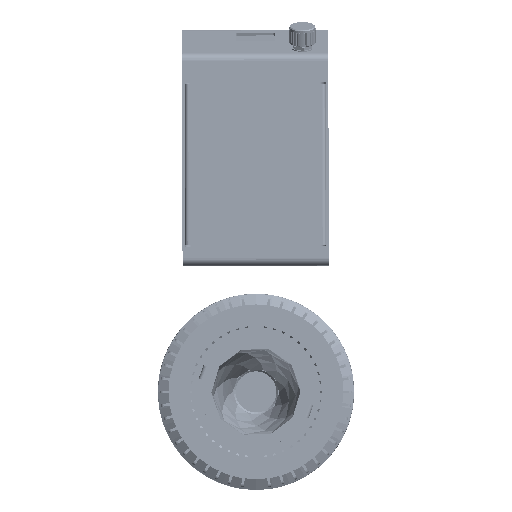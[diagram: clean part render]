
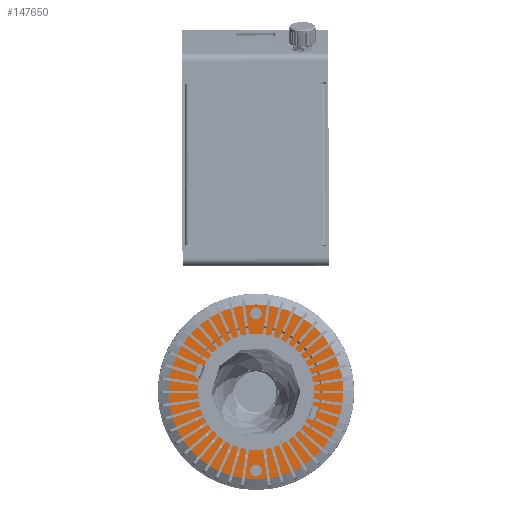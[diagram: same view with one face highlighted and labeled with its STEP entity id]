
A CAD part, front view. The second image highlights one B-rep face of the part: STEP entity #147650.
In plain terms, the highlighted planar face has unit normal (0, -1, 0).
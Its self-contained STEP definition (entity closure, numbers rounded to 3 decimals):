
#4703 = DIRECTION ( 'NONE',  ( 0., -1., 0. ) ) ;
#6197 = CIRCLE ( 'NONE', #116721, 3.25 ) ;
#6891 = CIRCLE ( 'NONE', #140581, 49. ) ;
#10521 = ORIENTED_EDGE ( 'NONE', *, *, #122057, .T. ) ;
#11467 = EDGE_LOOP ( 'NONE', ( #134965, #10521 ) ) ;
#12280 = VERTEX_POINT ( 'NONE', #152110 ) ;
#13689 = CIRCLE ( 'NONE', #147426, 1.6 ) ;
#19390 = ORIENTED_EDGE ( 'NONE', *, *, #133892, .F. ) ;
#20429 = CARTESIAN_POINT ( 'NONE',  ( 0., 0., 0. ) ) ;
#20991 = DIRECTION ( 'NONE',  ( 0., 1., 0. ) ) ;
#25234 = DIRECTION ( 'NONE',  ( 1., 0., 0. ) ) ;
#26671 = VERTEX_POINT ( 'NONE', #30803 ) ;
#26862 = DIRECTION ( 'NONE',  ( 1., 0., 0. ) ) ;
#28065 = EDGE_LOOP ( 'NONE', ( #33609, #51198 ) ) ;
#30463 = ORIENTED_EDGE ( 'NONE', *, *, #113246, .F. ) ;
#30803 = CARTESIAN_POINT ( 'NONE',  ( 29., 0., 0. ) ) ;
#31057 = DIRECTION ( 'NONE',  ( 0., -1., 0. ) ) ;
#31956 = CARTESIAN_POINT ( 'NONE',  ( 11.287, 0., 31.01 ) ) ;
#32074 = DIRECTION ( 'NONE',  ( 1., 0., 0. ) ) ;
#32971 = DIRECTION ( 'NONE',  ( 0., -1., 0. ) ) ;
#33609 = ORIENTED_EDGE ( 'NONE', *, *, #73610, .F. ) ;
#35518 = DIRECTION ( 'NONE',  ( 0., -1., 0. ) ) ;
#36045 = CARTESIAN_POINT ( 'NONE',  ( -49., 0., 0. ) ) ;
#37720 = DIRECTION ( 'NONE',  ( 0., 0., 1. ) ) ;
#42056 = CIRCLE ( 'NONE', #98749, 29. ) ;
#42643 = DIRECTION ( 'NONE',  ( 0., -1., 0. ) ) ;
#43505 = CARTESIAN_POINT ( 'NONE',  ( -44., 0., 3.25 ) ) ;
#44481 = CARTESIAN_POINT ( 'NONE',  ( 49., 0., 0. ) ) ;
#49254 = DIRECTION ( 'NONE',  ( 1., 0., 0. ) ) ;
#50629 = AXIS2_PLACEMENT_3D ( 'NONE', #66057, #20991, #37720 ) ;
#51198 = ORIENTED_EDGE ( 'NONE', *, *, #61976, .F. ) ;
#56404 = AXIS2_PLACEMENT_3D ( 'NONE', #80374, #100110, #83414 ) ;
#56887 = DIRECTION ( 'NONE',  ( 0., -1., 0. ) ) ;
#60157 = FACE_BOUND ( 'NONE', #146115, .T. ) ;
#61976 = EDGE_CURVE ( 'NONE', #26671, #12280, #42056, .T. ) ;
#62097 = EDGE_LOOP ( 'NONE', ( #30463, #19390 ) ) ;
#63173 = VERTEX_POINT ( 'NONE', #197622 ) ;
#63354 = CARTESIAN_POINT ( 'NONE',  ( -11.287, 0., -31.01 ) ) ;
#65351 = VERTEX_POINT ( 'NONE', #201044 ) ;
#66057 = CARTESIAN_POINT ( 'NONE',  ( 44., 0., 0. ) ) ;
#66432 = DIRECTION ( 'NONE',  ( 0., -1., 0. ) ) ;
#67828 = DIRECTION ( 'NONE',  ( 0., 1., 0. ) ) ;
#68378 = CIRCLE ( 'NONE', #152066, 3.25 ) ;
#72948 = EDGE_LOOP ( 'NONE', ( #159216, #182667 ) ) ;
#73610 = EDGE_CURVE ( 'NONE', #12280, #26671, #193335, .T. ) ;
#74135 = EDGE_CURVE ( 'NONE', #130289, #65351, #196925, .T. ) ;
#74198 = CARTESIAN_POINT ( 'NONE',  ( 9.687, 0., 31.01 ) ) ;
#75272 = CIRCLE ( 'NONE', #175585, 1.6 ) ;
#75844 = CARTESIAN_POINT ( 'NONE',  ( 12.887, 0., 31.01 ) ) ;
#75867 = FACE_BOUND ( 'NONE', #28065, .T. ) ;
#76066 = CARTESIAN_POINT ( 'NONE',  ( 0., 0., 0. ) ) ;
#76688 = AXIS2_PLACEMENT_3D ( 'NONE', #186162, #42643, #110648 ) ;
#80374 = CARTESIAN_POINT ( 'NONE',  ( -44., 0., 0. ) ) ;
#80904 = DIRECTION ( 'NONE',  ( 0., 1., 0. ) ) ;
#83414 = DIRECTION ( 'NONE',  ( 0., 0., 1. ) ) ;
#86327 = EDGE_CURVE ( 'NONE', #158208, #141358, #107845, .T. ) ;
#86633 = CIRCLE ( 'NONE', #76688, 49. ) ;
#89248 = CARTESIAN_POINT ( 'NONE',  ( -11.287, 0., -31.01 ) ) ;
#91342 = EDGE_LOOP ( 'NONE', ( #148248, #113228 ) ) ;
#91543 = FACE_BOUND ( 'NONE', #62097, .T. ) ;
#92971 = AXIS2_PLACEMENT_3D ( 'NONE', #196803, #35518, #49254 ) ;
#98749 = AXIS2_PLACEMENT_3D ( 'NONE', #20429, #4703, #197443 ) ;
#100110 = DIRECTION ( 'NONE',  ( 0., 1., 0. ) ) ;
#103894 = CARTESIAN_POINT ( 'NONE',  ( -9.687, 0., -31.01 ) ) ;
#107468 = CARTESIAN_POINT ( 'NONE',  ( 49., 0., 0. ) ) ;
#107845 = CIRCLE ( 'NONE', #157881, 1.6 ) ;
#110648 = DIRECTION ( 'NONE',  ( 1., 0., 0. ) ) ;
#111621 = DIRECTION ( 'NONE',  ( 0., -1., 0. ) ) ;
#113228 = ORIENTED_EDGE ( 'NONE', *, *, #178643, .T. ) ;
#113246 = EDGE_CURVE ( 'NONE', #117670, #193080, #119151, .T. ) ;
#114636 = DIRECTION ( 'NONE',  ( 1., 0., 0. ) ) ;
#116721 = AXIS2_PLACEMENT_3D ( 'NONE', #176222, #80904, #174154 ) ;
#117033 = CARTESIAN_POINT ( 'NONE',  ( 44., 0., 0. ) ) ;
#117670 = VERTEX_POINT ( 'NONE', #130095 ) ;
#118609 = VERTEX_POINT ( 'NONE', #36045 ) ;
#119151 = CIRCLE ( 'NONE', #125777, 1.6 ) ;
#122057 = EDGE_CURVE ( 'NONE', #191826, #118609, #6891, .T. ) ;
#122137 = ORIENTED_EDGE ( 'NONE', *, *, #74135, .T. ) ;
#122998 = DIRECTION ( 'NONE',  ( 0., -1., 0. ) ) ;
#125777 = AXIS2_PLACEMENT_3D ( 'NONE', #63354, #66432, #114636 ) ;
#130095 = CARTESIAN_POINT ( 'NONE',  ( -12.887, 0., -31.01 ) ) ;
#130289 = VERTEX_POINT ( 'NONE', #43505 ) ;
#133892 = EDGE_CURVE ( 'NONE', #193080, #117670, #13689, .T. ) ;
#134965 = ORIENTED_EDGE ( 'NONE', *, *, #168046, .T. ) ;
#139663 = FACE_OUTER_BOUND ( 'NONE', #11467, .T. ) ;
#140581 = AXIS2_PLACEMENT_3D ( 'NONE', #76066, #111621, #26862 ) ;
#141358 = VERTEX_POINT ( 'NONE', #75844 ) ;
#143301 = CARTESIAN_POINT ( 'NONE',  ( 44., 0., -3.25 ) ) ;
#146115 = EDGE_LOOP ( 'NONE', ( #195583, #122137 ) ) ;
#147426 = AXIS2_PLACEMENT_3D ( 'NONE', #89248, #56887, #168895 ) ;
#147650 = ADVANCED_FACE ( 'NONE', ( #203624, #91543, #187979, #139663, #75867, #60157 ), #171205, .T. ) ;
#148248 = ORIENTED_EDGE ( 'NONE', *, *, #190745, .T. ) ;
#152066 = AXIS2_PLACEMENT_3D ( 'NONE', #117033, #67828, #195626 ) ;
#152110 = CARTESIAN_POINT ( 'NONE',  ( -29., 0., 0. ) ) ;
#152398 = AXIS2_PLACEMENT_3D ( 'NONE', #44481, #122998, #25234 ) ;
#156637 = CARTESIAN_POINT ( 'NONE',  ( 11.287, 0., 31.01 ) ) ;
#157881 = AXIS2_PLACEMENT_3D ( 'NONE', #31956, #32971, #176445 ) ;
#158208 = VERTEX_POINT ( 'NONE', #74198 ) ;
#159216 = ORIENTED_EDGE ( 'NONE', *, *, #86327, .F. ) ;
#167896 = VERTEX_POINT ( 'NONE', #143301 ) ;
#168046 = EDGE_CURVE ( 'NONE', #118609, #191826, #86633, .T. ) ;
#168895 = DIRECTION ( 'NONE',  ( 1., 0., 0. ) ) ;
#171205 = PLANE ( 'NONE',  #152398 ) ;
#174154 = DIRECTION ( 'NONE',  ( 0., 0., 1. ) ) ;
#175585 = AXIS2_PLACEMENT_3D ( 'NONE', #156637, #31057, #32074 ) ;
#176222 = CARTESIAN_POINT ( 'NONE',  ( -44., 0., 0. ) ) ;
#176445 = DIRECTION ( 'NONE',  ( 1., 0., 0. ) ) ;
#178643 = EDGE_CURVE ( 'NONE', #63173, #167896, #181084, .T. ) ;
#181084 = CIRCLE ( 'NONE', #50629, 3.25 ) ;
#182667 = ORIENTED_EDGE ( 'NONE', *, *, #193464, .F. ) ;
#186162 = CARTESIAN_POINT ( 'NONE',  ( 0., 0., 0. ) ) ;
#187979 = FACE_BOUND ( 'NONE', #91342, .T. ) ;
#190745 = EDGE_CURVE ( 'NONE', #167896, #63173, #68378, .T. ) ;
#191826 = VERTEX_POINT ( 'NONE', #107468 ) ;
#193080 = VERTEX_POINT ( 'NONE', #103894 ) ;
#193335 = CIRCLE ( 'NONE', #92971, 29. ) ;
#193464 = EDGE_CURVE ( 'NONE', #141358, #158208, #75272, .T. ) ;
#195583 = ORIENTED_EDGE ( 'NONE', *, *, #204921, .T. ) ;
#195626 = DIRECTION ( 'NONE',  ( 0., 0., 1. ) ) ;
#196803 = CARTESIAN_POINT ( 'NONE',  ( 0., 0., 0. ) ) ;
#196925 = CIRCLE ( 'NONE', #56404, 3.25 ) ;
#197443 = DIRECTION ( 'NONE',  ( 1., 0., 0. ) ) ;
#197622 = CARTESIAN_POINT ( 'NONE',  ( 44., 0., 3.25 ) ) ;
#201044 = CARTESIAN_POINT ( 'NONE',  ( -44., 0., -3.25 ) ) ;
#203624 = FACE_BOUND ( 'NONE', #72948, .T. ) ;
#204921 = EDGE_CURVE ( 'NONE', #65351, #130289, #6197, .T. ) ;
